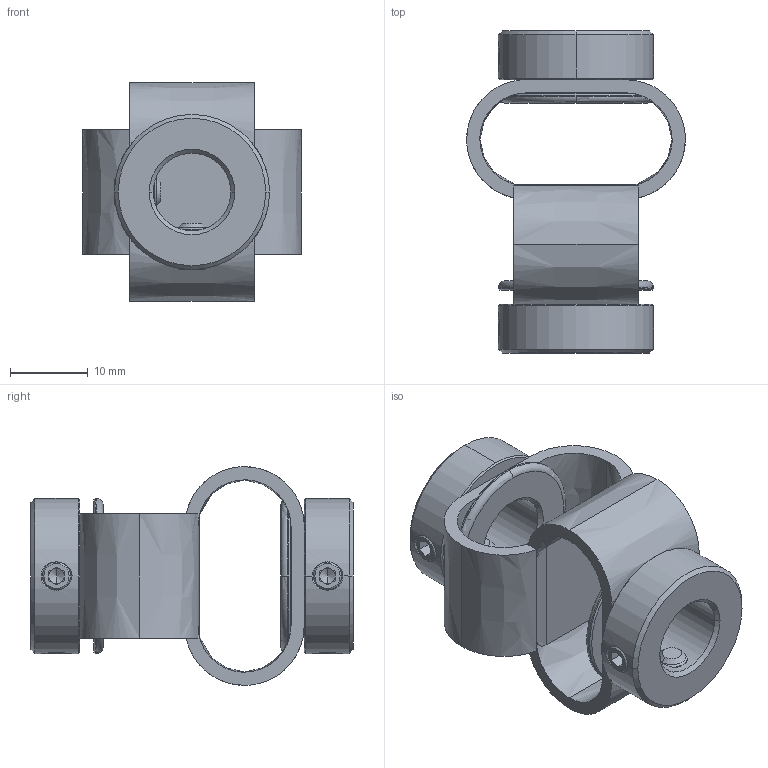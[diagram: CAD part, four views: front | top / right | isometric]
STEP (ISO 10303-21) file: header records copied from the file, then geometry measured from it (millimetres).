
FILE_DESCRIPTION (( 'STEP AP203' ), '1' );
FILE_NAME ('LS-D-D27L40-10-10.STEP', '2021-10-28T06:39:50', ( '' ), ( '' ), 'SwSTEP 2.0', 'SolidWorks 2018', '' );
FILE_SCHEMA (( 'CONFIG_CONTROL_DESIGN' ));
Length unit declared in the file: millimetre
Products named in the file (1): LS-D-D27L40-10-10
Bounding box: 28.2 x 41.54 x 28.2 mm (x, y, z)
Volume: 6440 mm3; surface area: 6668.9 mm2
Topology: 1 solids, 1 shells, 214 faces, 550 edges, 342 vertices
Faces by surface type: plane 86, cone 78, cylinder 30, bspline 16, torus 4
Entity records: 8367 total; most frequent: CARTESIAN_POINT 3301, ORIENTED_EDGE 1084, DIRECTION 974, EDGE_CURVE 542, AXIS2_PLACEMENT_3D 385, VERTEX_POINT 342, EDGE_LOOP 242, ADVANCED_FACE 214
